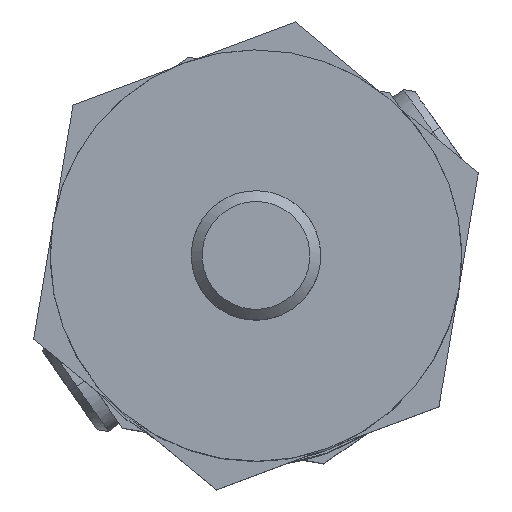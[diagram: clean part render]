
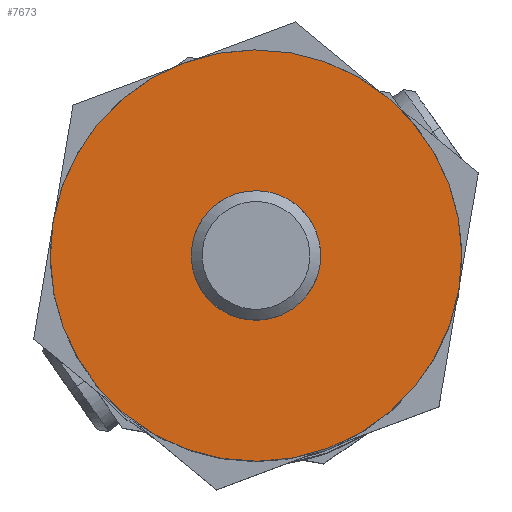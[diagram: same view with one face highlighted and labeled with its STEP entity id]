
A CAD part, top view. The second image highlights one B-rep face of the part: STEP entity #7673.
In plain terms, the highlighted planar face has unit normal (0, 0, 1) as drawn and (0, -1, 0) by its records, which use the part's own axes.
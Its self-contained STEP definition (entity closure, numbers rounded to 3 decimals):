
#363=FACE_BOUND('',#1670,.T.);
#1133=FACE_OUTER_BOUND('',#1669,.T.);
#1669=EDGE_LOOP('',(#6976));
#1670=EDGE_LOOP('',(#6977));
#2037=CIRCLE('',#8837,6.);
#2050=CIRCLE('',#8875,19.075);
#3731=VERTEX_POINT('',#35855);
#3768=VERTEX_POINT('',#35973);
#4791=EDGE_CURVE('',#3731,#3731,#2037,.T.);
#4847=EDGE_CURVE('',#3768,#3768,#2050,.T.);
#6976=ORIENTED_EDGE('',*,*,#4847,.F.);
#6977=ORIENTED_EDGE('',*,*,#4791,.T.);
#7230=PLANE('',#8874);
#7673=ADVANCED_FACE('',(#1133,#363),#7230,.T.);
#8837=AXIS2_PLACEMENT_3D('',#35856,#10793,#10794);
#8874=AXIS2_PLACEMENT_3D('',#35972,#10910,#10911);
#8875=AXIS2_PLACEMENT_3D('',#35974,#10912,#10913);
#10793=DIRECTION('center_axis',(0.,1.,0.));
#10794=DIRECTION('ref_axis',(0.,0.,
1.));
#10910=DIRECTION('center_axis',(0.,-1.,0.));
#10911=DIRECTION('ref_axis',(0.,0.,-1.));
#10912=DIRECTION('center_axis',(0.,1.,0.));
#10913=DIRECTION('ref_axis',(0.,0.,
1.));
#35855=CARTESIAN_POINT('',(0.,0.,-6.));
#35856=CARTESIAN_POINT('Origin',(0.,0.,
0.));
#35972=CARTESIAN_POINT('Origin',(-19.085,0.,0.));
#35973=CARTESIAN_POINT('',(0.,0.,-19.075));
#35974=CARTESIAN_POINT('Origin',(0.,0.,
0.));
